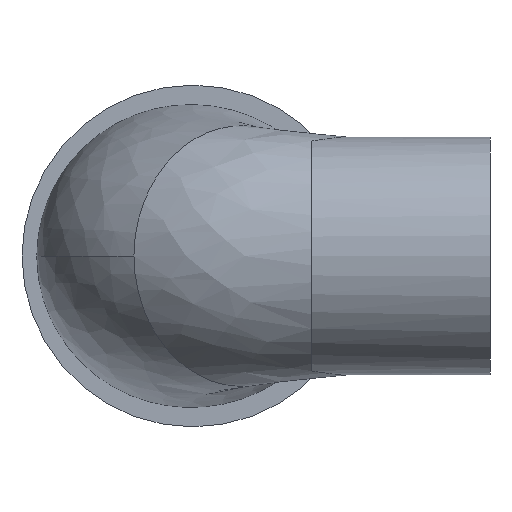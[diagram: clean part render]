
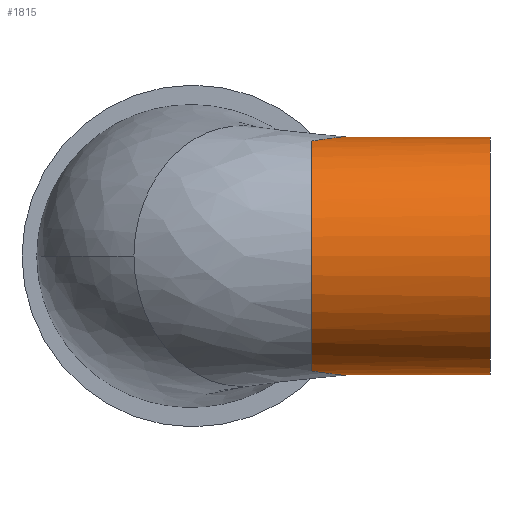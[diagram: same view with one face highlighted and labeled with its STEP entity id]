
A CAD part, left-side view. The second image highlights one B-rep face of the part: STEP entity #1815.
In plain terms, the highlighted cylindrical face has radius 8 mm (diameter 16 mm), a partial arc.
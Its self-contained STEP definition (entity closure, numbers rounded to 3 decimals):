
#9 = CARTESIAN_POINT ( 'NONE',  ( -0.818, -9.668, -7.96 ) ) ;
#21 = CARTESIAN_POINT ( 'NONE',  ( -1.5, -8.885, 7.865 ) ) ;
#45 = CARTESIAN_POINT ( 'NONE',  ( -2.037, -8., -7.736 ) ) ;
#103 = VERTEX_POINT ( 'NONE', #858 ) ;
#315 = CARTESIAN_POINT ( 'NONE',  ( 0., -20., -8. ) ) ;
#327 = CARTESIAN_POINT ( 'NONE',  ( -0.429, -10.017, -7.991 ) ) ;
#352 = CARTESIAN_POINT ( 'NONE',  ( -1.785, -8.454, -7.803 ) ) ;
#367 = EDGE_CURVE ( 'NONE', #1294, #2349, #517, .T. ) ;
#378 = CARTESIAN_POINT ( 'NONE',  ( 0., -10.313, 8. ) ) ;
#459 = ORIENTED_EDGE ( 'NONE', *, *, #3163, .T. ) ;
#465 = DIRECTION ( 'NONE',  ( 0., 1., 0. ) ) ;
#497 = CARTESIAN_POINT ( 'NONE',  ( 0., -20., 0. ) ) ;
#517 = CIRCLE ( 'NONE', #1527, 8. ) ;
#692 = CARTESIAN_POINT ( 'NONE',  ( -0.429, -10.017, 7.991 ) ) ;
#715 = ORIENTED_EDGE ( 'NONE', *, *, #998, .T. ) ;
#745 = LINE ( 'NONE', #1944, #2924 ) ;
#841 = VECTOR ( 'NONE', #3916, 1000. ) ;
#858 = CARTESIAN_POINT ( 'NONE',  ( 0., -20., 8. ) ) ;
#947 = EDGE_CURVE ( 'NONE', #103, #3148, #745, .T. ) ;
#985 = CARTESIAN_POINT ( 'NONE',  ( -0.999, -9.478, -7.939 ) ) ;
#998 = EDGE_CURVE ( 'NONE', #1490, #103, #1574, .T. ) ;
#1181 = CARTESIAN_POINT ( 'NONE',  ( 0., -8., 0. ) ) ;
#1207 = EDGE_LOOP ( 'NONE', ( #2663, #715, #1744, #1817, #1635, #459 ) ) ;
#1209 = B_SPLINE_CURVE_WITH_KNOTS ( 'NONE', 3,
 ( #1309, #3426, #692, #3145, #1615, #21, #1293, #1317 ),
 .UNSPECIFIED., .F., .F.,
 ( 4, 2, 2, 4 ),
 ( 0.007, 0.007, 0.008, 0.01 ),
 .UNSPECIFIED. ) ;
#1293 = CARTESIAN_POINT ( 'NONE',  ( -1.785, -8.454, 7.803 ) ) ;
#1294 = VERTEX_POINT ( 'NONE', #2973 ) ;
#1309 = CARTESIAN_POINT ( 'NONE',  ( 0., -10.313, 8. ) ) ;
#1317 = CARTESIAN_POINT ( 'NONE',  ( -2.037, -8., 7.736 ) ) ;
#1383 = DIRECTION ( 'NONE',  ( 0., 0., 1. ) ) ;
#1391 = DIRECTION ( 'NONE',  ( 0., 0., 1. ) ) ;
#1444 = DIRECTION ( 'NONE',  ( 0., 0., 1. ) ) ;
#1490 = VERTEX_POINT ( 'NONE', #315 ) ;
#1527 = AXIS2_PLACEMENT_3D ( 'NONE', #1181, #3923, #1444 ) ;
#1574 = CIRCLE ( 'NONE', #3175, 8. ) ;
#1587 = LINE ( 'NONE', #2464, #841 ) ;
#1615 = CARTESIAN_POINT ( 'NONE',  ( -0.996, -9.481, 7.94 ) ) ;
#1635 = ORIENTED_EDGE ( 'NONE', *, *, #367, .F. ) ;
#1680 = CARTESIAN_POINT ( 'NONE',  ( -0.223, -10.176, -8. ) ) ;
#1744 = ORIENTED_EDGE ( 'NONE', *, *, #947, .T. ) ;
#1749 = CARTESIAN_POINT ( 'NONE',  ( 0., -10.313, -8. ) ) ;
#1815 = ADVANCED_FACE ( 'NONE', ( #3471 ), #2469, .T. ) ;
#1817 = ORIENTED_EDGE ( 'NONE', *, *, #3021, .T. ) ;
#1944 = CARTESIAN_POINT ( 'NONE',  ( 0., 8.184, 8. ) ) ;
#1974 = CARTESIAN_POINT ( 'NONE',  ( -2.037, -8., 7.736 ) ) ;
#2349 = VERTEX_POINT ( 'NONE', #1974 ) ;
#2464 = CARTESIAN_POINT ( 'NONE',  ( 0., 8.184, -8. ) ) ;
#2469 = CYLINDRICAL_SURFACE ( 'NONE', #3771, 8. ) ;
#2495 = VERTEX_POINT ( 'NONE', #1749 ) ;
#2542 = EDGE_CURVE ( 'NONE', #1490, #2495, #1587, .T. ) ;
#2560 = DIRECTION ( 'NONE',  ( 0., 1., 0. ) ) ;
#2663 = ORIENTED_EDGE ( 'NONE', *, *, #2542, .F. ) ;
#2780 = CARTESIAN_POINT ( 'NONE',  ( 0., 8.184, 0. ) ) ;
#2834 = CARTESIAN_POINT ( 'NONE',  ( -1.5, -8.885, -7.865 ) ) ;
#2924 = VECTOR ( 'NONE', #2560, 1000. ) ;
#2973 = CARTESIAN_POINT ( 'NONE',  ( -2.037, -8., -7.736 ) ) ;
#3021 = EDGE_CURVE ( 'NONE', #3148, #2349, #1209, .T. ) ;
#3055 = B_SPLINE_CURVE_WITH_KNOTS ( 'NONE', 3,
 ( #45, #352, #2834, #985, #9, #327, #1680, #3186 ),
 .UNSPECIFIED., .F., .F.,
 ( 4, 2, 2, 4 ),
 ( 0., 0.002, 0.002, 0.003 ),
 .UNSPECIFIED. ) ;
#3145 = CARTESIAN_POINT ( 'NONE',  ( -0.815, -9.67, 7.961 ) ) ;
#3148 = VERTEX_POINT ( 'NONE', #378 ) ;
#3163 = EDGE_CURVE ( 'NONE', #1294, #2495, #3055, .T. ) ;
#3175 = AXIS2_PLACEMENT_3D ( 'NONE', #497, #465, #1383 ) ;
#3186 = CARTESIAN_POINT ( 'NONE',  ( 0., -10.313, -8. ) ) ;
#3426 = CARTESIAN_POINT ( 'NONE',  ( -0.224, -10.175, 8. ) ) ;
#3471 = FACE_OUTER_BOUND ( 'NONE', #1207, .T. ) ;
#3732 = DIRECTION ( 'NONE',  ( 0., 1., 0. ) ) ;
#3771 = AXIS2_PLACEMENT_3D ( 'NONE', #2780, #3732, #1391 ) ;
#3916 = DIRECTION ( 'NONE',  ( 0., 1., 0. ) ) ;
#3923 = DIRECTION ( 'NONE',  ( 0., 1., 0. ) ) ;
